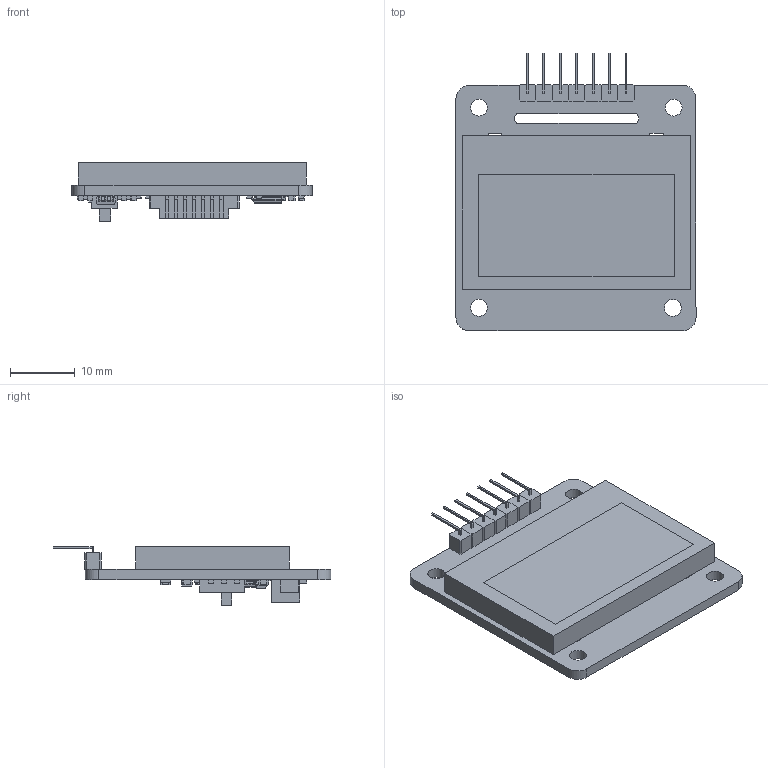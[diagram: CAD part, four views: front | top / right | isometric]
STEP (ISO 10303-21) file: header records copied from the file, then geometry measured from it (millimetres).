
FILE_DESCRIPTION(/* description */ (''),/* implementation_level */ '2;1');
FILE_NAME(/* name */ '1.3inch OLED HAT （B）_stp.stp',/* time_stamp */ '2025-08-27T09:30:29+08:00',/* author */ (''),/* organization */ (''),/* preprocessor_version */ 'ST-DEVELOPER v16.7',/* originating_system */ 'SIEMENS PLM Software NX 12.0',/* authorisation */ '');
FILE_SCHEMA (('AUTOMOTIVE_DESIGN { 1 0 10303 214 3 1 1 1 }'));
Length unit declared in the file: millimetre
Products named in the file (38): C_06034835; LOGO_; Open CASCADE STEP translator 6.8 1.1.1.1; txs0108epwr; SOT23-5-2; apingmu1; Akaigun1; User_Library-R0603-2; Akgl1; Adianz1; Apaiz; C_0603; C1; C2; C3; C4; C5; C6; C7; C8; C9; R1; R2; R3; R4; C10; C11; C12; R5; R6; U1; C13; R7; U2; C14; Open CASCADE STEP translator 6.8 1.1.1; Board; 1.3inch OLED HAT （B）_stp
Assembly tree (57 placements, depth 4):
  1.3inch OLED HAT （B）_stp
    Board
      Open CASCADE STEP translator 6.8 1.1.1
        Open CASCADE STEP translator 6.8 1.1.1.1
    C14
      C_0603
        LOGO_
        C_06034835
    U2
      SOT23-5-2
    R7
      User_Library-R0603-2
    C13
      C_0603
        LOGO_
        C_06034835
    U1
      txs0108epwr
    R6
      User_Library-R0603-2
    R5
      User_Library-R0603-2
    C12
      C_0603
        LOGO_
        C_06034835
    C11
      C_0603
        LOGO_
        C_06034835
    C10
      C_0603
        LOGO_
        C_06034835
    R4
      User_Library-R0603-2
    R3
      User_Library-R0603-2
    R2
      User_Library-R0603-2
    R1
      User_Library-R0603-2
    C9
      C_0603
        LOGO_
        C_06034835
    C8
      C_0603
        LOGO_
        C_06034835
    C7
      C_0603
        LOGO_
        C_06034835
    C6
      C_0603
        LOGO_
        C_06034835
    C5
      C_0603
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Bounding box: 37.16 x 42.95 x 9.1 mm (x, y, z)
Volume: 5424.7 mm3; surface area: 7197.4 mm2
Topology: 308 solids, 308 shells, 4390 faces, 10537 edges, 6814 vertices
Faces by surface type: plane 2232, bspline 1400, cylinder 644, sphere 114
Full cylindrical faces by diameter (mm): 0.9 x9, 2.6 x4
Entity records: 46668 total; most frequent: CARTESIAN_POINT 14335, ORIENTED_EDGE 5896, DIRECTION 5287, EDGE_CURVE 2948, LINE 2359, VECTOR 2359, VERTEX_POINT 1942, AXIS2_PLACEMENT_3D 1464
